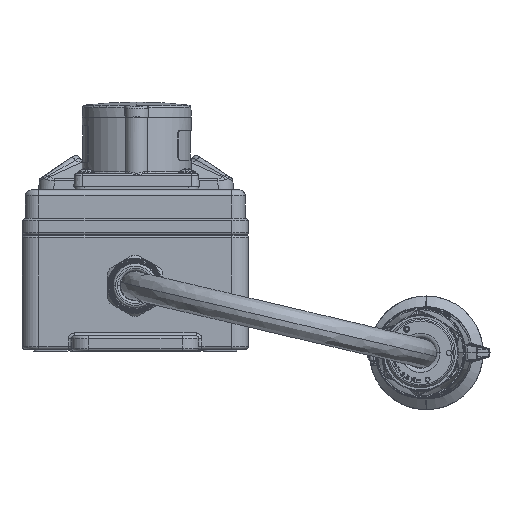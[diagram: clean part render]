
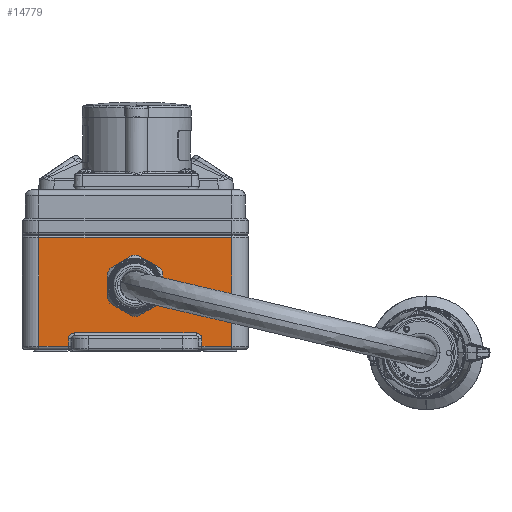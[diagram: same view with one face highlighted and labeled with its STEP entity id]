
A CAD part, front view. The second image highlights one B-rep face of the part: STEP entity #14779.
In plain terms, the highlighted planar face has unit normal (0, -1, 0).
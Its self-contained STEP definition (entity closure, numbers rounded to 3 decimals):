
#2359=DIRECTION('',(1.,0.,0.));
#2360=VECTOR('',#2359,17.75);
#2361=CARTESIAN_POINT('',(107.25,0.,2.75));
#2362=LINE('8043',#2361,#2360);
#2627=DIRECTION('',(1.,0.,0.));
#2628=VECTOR('',#2627,17.75);
#2629=CARTESIAN_POINT('',(10.,0.,2.75));
#2630=LINE('8081',#2629,#2628);
#3164=DIRECTION('',(0.,0.,-1.));
#3165=VECTOR('',#3164,64.73);
#3166=CARTESIAN_POINT('',(10.,0.,67.48));
#3167=LINE('8141',#3166,#3165);
#3178=CARTESIAN_POINT('',(103.75,0.,7.25));
#3179=DIRECTION('',(0.,-1.,0.));
#3180=DIRECTION('',(1.,0.,0.));
#3181=AXIS2_PLACEMENT_3D('',#3178,#3179,#3180);
#3186=CARTESIAN_POINT('',(31.25,0.,7.25));
#3187=DIRECTION('',(0.,-1.,0.));
#3188=DIRECTION('',(0.,0.,1.));
#3189=AXIS2_PLACEMENT_3D('',#3186,#3187,#3188);
#3194=DIRECTION('',(-1.,0.,0.));
#3195=VECTOR('',#3194,115.);
#3196=CARTESIAN_POINT('',(125.,0.,67.48));
#3197=LINE('8142',#3196,#3195);
#3239=DIRECTION('',(0.,0.,1.));
#3240=VECTOR('',#3239,64.73);
#3241=CARTESIAN_POINT('',(125.,0.,2.75));
#3242=LINE('8143',#3241,#3240);
#3261=DIRECTION('',(0.,0.,-1.));
#3262=VECTOR('',#3261,4.5);
#3263=CARTESIAN_POINT('',(107.25,0.,7.25));
#3264=LINE('8144',#3263,#3262);
#3433=DIRECTION('',(0.,0.,1.));
#3434=VECTOR('',#3433,4.5);
#3435=CARTESIAN_POINT('',(27.75,0.,2.75));
#3436=LINE('8148',#3435,#3434);
#3447=DIRECTION('',(1.,0.,0.));
#3448=VECTOR('',#3447,72.5);
#3449=CARTESIAN_POINT('',(31.25,0.,10.75));
#3450=LINE('8146',#3449,#3448);
#10429=CARTESIAN_POINT('',(125.,0.,2.75));
#10430=VERTEX_POINT('',#10429);
#10431=CARTESIAN_POINT('',(107.25,0.,2.75));
#10432=VERTEX_POINT('',#10431);
#10482=CARTESIAN_POINT('',(27.75,0.,2.75));
#10483=VERTEX_POINT('',#10482);
#10484=CARTESIAN_POINT('',(10.,0.,2.75));
#10485=VERTEX_POINT('',#10484);
#10530=CARTESIAN_POINT('',(10.,0.,67.48));
#10531=VERTEX_POINT('',#10530);
#10532=CARTESIAN_POINT('',(125.,0.,67.48));
#10533=VERTEX_POINT('',#10532);
#10534=CARTESIAN_POINT('',(107.25,0.,7.25));
#10535=VERTEX_POINT('',#10534);
#10536=CARTESIAN_POINT('',(103.75,0.,10.75));
#10537=VERTEX_POINT('',#10536);
#10538=CARTESIAN_POINT('',(31.25,0.,10.75));
#10539=VERTEX_POINT('',#10538);
#10540=CARTESIAN_POINT('',(27.75,0.,7.25));
#10541=VERTEX_POINT('',#10540);
#14755=CARTESIAN_POINT('',(0.,0.,1.));
#14756=DIRECTION('',(0.,-1.,0.));
#14757=DIRECTION('',(1.,0.,0.));
#14758=AXIS2_PLACEMENT_3D('',#14755,#14756,#14757);
#14759=PLANE('9119',#14758);
#14761=ORIENTED_EDGE('8142',*,*,#14760,.F.);
#14763=ORIENTED_EDGE('8143',*,*,#14762,.F.);
#14764=ORIENTED_EDGE('8043',*,*,#13627,.F.);
#14766=ORIENTED_EDGE('8144',*,*,#14765,.F.);
#14768=ORIENTED_EDGE('8145',*,*,#14767,.T.);
#14770=ORIENTED_EDGE('8146',*,*,#14769,.F.);
#14772=ORIENTED_EDGE('8147',*,*,#14771,.T.);
#14774=ORIENTED_EDGE('8148',*,*,#14773,.F.);
#14775=ORIENTED_EDGE('8081',*,*,#13909,.F.);
#14776=ORIENTED_EDGE('8141',*,*,#14736,.F.);
#14777=EDGE_LOOP('9119',(#14761,#14763,#14764,#14766,#14768,#14770,#14772,
#14774,#14775,#14776));
#14778=FACE_OUTER_BOUND('9119',#14777,.F.);
#3182=CIRCLE('8145',#3181,3.5);
#3190=CIRCLE('8147',#3189,3.5);
#13627=EDGE_CURVE('8043',#10432,#10430,#2362,.T.);
#13909=EDGE_CURVE('8081',#10485,#10483,#2630,.T.);
#14736=EDGE_CURVE('8141',#10531,#10485,#3167,.T.);
#14760=EDGE_CURVE('8142',#10533,#10531,#3197,.T.);
#14762=EDGE_CURVE('8143',#10430,#10533,#3242,.T.);
#14765=EDGE_CURVE('8144',#10535,#10432,#3264,.T.);
#14767=EDGE_CURVE('8145',#10535,#10537,#3182,.T.);
#14769=EDGE_CURVE('8146',#10539,#10537,#3450,.T.);
#14771=EDGE_CURVE('8147',#10539,#10541,#3190,.T.);
#14773=EDGE_CURVE('8148',#10483,#10541,#3436,.T.);
#14779=ADVANCED_FACE('9119',(#14778),#14759,.T.);
